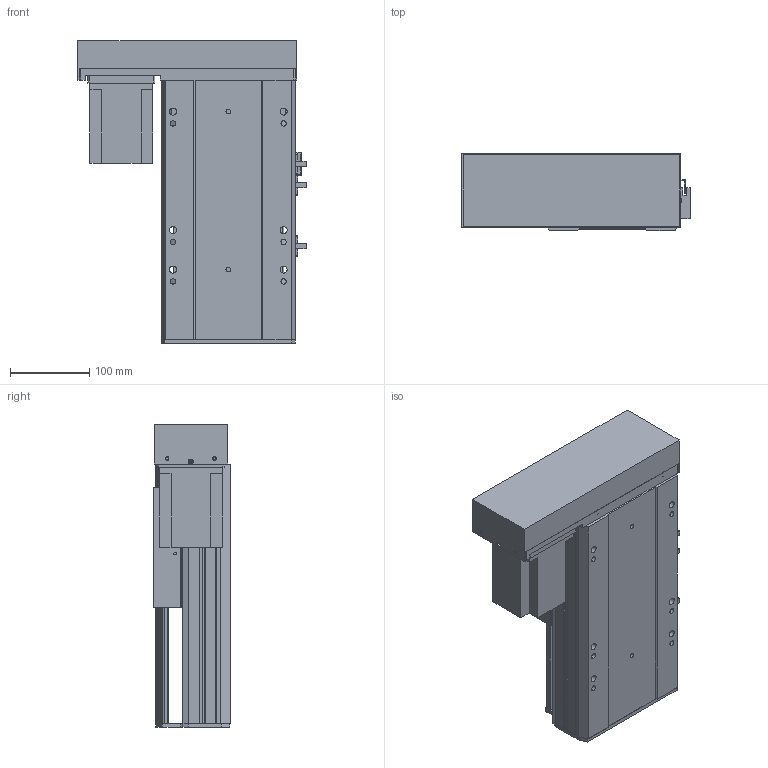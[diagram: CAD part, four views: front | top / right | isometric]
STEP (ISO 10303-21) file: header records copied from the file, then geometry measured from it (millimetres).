
FILE_DESCRIPTION (( 'STEP AP203' ), '1' );
FILE_NAME ('Y170-D10-S100-BL-P750W.STEP', '2020-01-17T12:54:20', ( '微软用户' ), ( '微软中国' ), 'SwSTEP 2.0', 'SolidWorks 2017', '' );
FILE_SCHEMA (( 'CONFIG_CONTROL_DESIGN' ));
Length unit declared in the file: millimetre
Products named in the file (12): Y170-陔遴奻裔-BR; Y170-BL-P750W楊擘啣; Y--BL蟀諉啣-陔遴-; 侂狟750W; Y170-D10-S100-BL-P750W; EGH20賑輸_蕼偞; Y170耜裔--準---; YD-Y100-135-新外置传感挡片(通用）; Y雄赽釱-耜蚾; Y100-135俋离換覜ん; Y-BL.BR-俋欶; 170--掛极-BR
Assembly tree (14 placements, depth 2):
  Y170-D10-S100-BL-P750W
    Y170耜裔--準---
    YD-Y100-135-新外置传感挡片(通用）
    Y100-135俋离換覜ん  x3
    170--掛极-BR
    Y170-BL-P750W楊擘啣
    侂狟750W
    EGH20賑輸_蕼偞  x2
    Y雄赽釱-耜蚾
    Y-BL.BR-俋欶
    Y170-陔遴奻裔-BR
    Y--BL蟀諉啣-陔遴-
Bounding box: 289 x 97 x 383.5 mm (x, y, z)
Volume: 2733277.7 mm3; surface area: 852164.5 mm2
Topology: 14 solids, 14 shells, 885 faces, 2450 edges, 1616 vertices
Faces by surface type: plane 443, cylinder 426, cone 16
Entity records: 27450 total; most frequent: CARTESIAN_POINT 4694, DIRECTION 4588, ORIENTED_EDGE 4396, EDGE_CURVE 2198, AXIS2_PLACEMENT_3D 1618, VERTEX_POINT 1460, LINE 1352, VECTOR 1352
